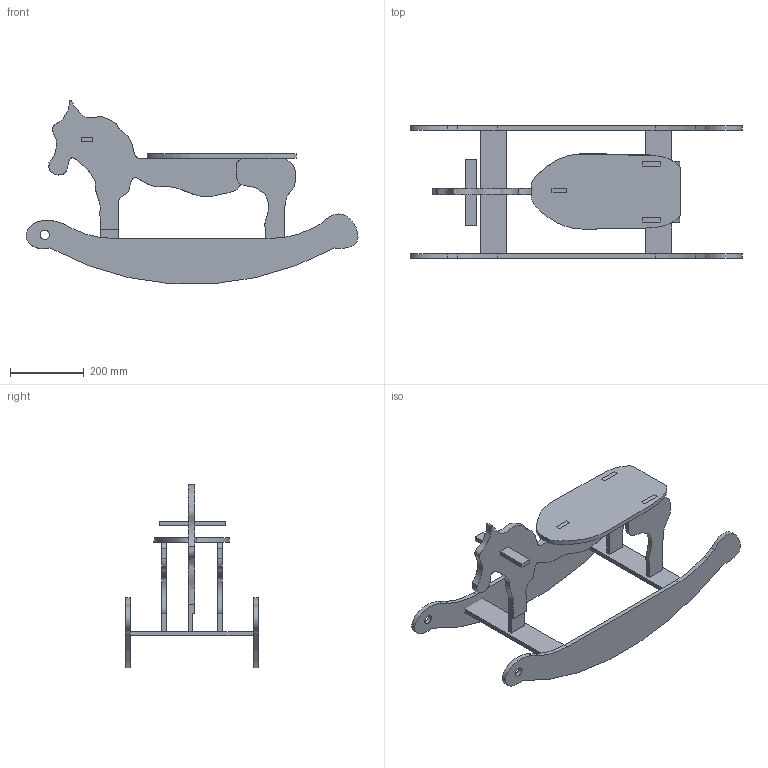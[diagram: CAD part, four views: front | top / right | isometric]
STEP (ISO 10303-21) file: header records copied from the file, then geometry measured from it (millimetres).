
FILE_DESCRIPTION(/* description */ (''),/* implementation_level */ '2;1');
FILE_NAME(/* name */ 'C:/Users/FABLAB/Desktop/CNC design v14(step).step',/* time_stamp */ '2020-10-12T21:58:42+05:00',/* author */ (''),/* organization */ (''),/* preprocessor_version */ 'ST-DEVELOPER v18.1',/* originating_system */ 'Autodesk Translation Framework v9.3.0.1241',/* authorisation */ '');
FILE_SCHEMA (('AUTOMOTIVE_DESIGN { 1 0 10303 214 3 1 1 }'));
Length unit declared in the file: millimetre
Products named in the file (4): CNC design; Component1; Component2; Component3
Assembly tree (3 placements, depth 2):
  CNC design
    Component1
    Component2
    Component3
Bounding box: 901.44 x 360 x 498.33 mm (x, y, z)
Volume: 5501315.4 mm3; surface area: 988405.3 mm2
Topology: 9 solids, 9 shells, 131 faces, 332 edges, 221 vertices
Faces by surface type: plane 101, bspline 18, cylinder 12
Full cylindrical faces by diameter (mm): 25 x2
Entity records: 9914 total; most frequent: CARTESIAN_POINT 6762, ORIENTED_EDGE 664, DIRECTION 556, EDGE_CURVE 332, LINE 268, VECTOR 268, VERTEX_POINT 221, EDGE_LOOP 151
